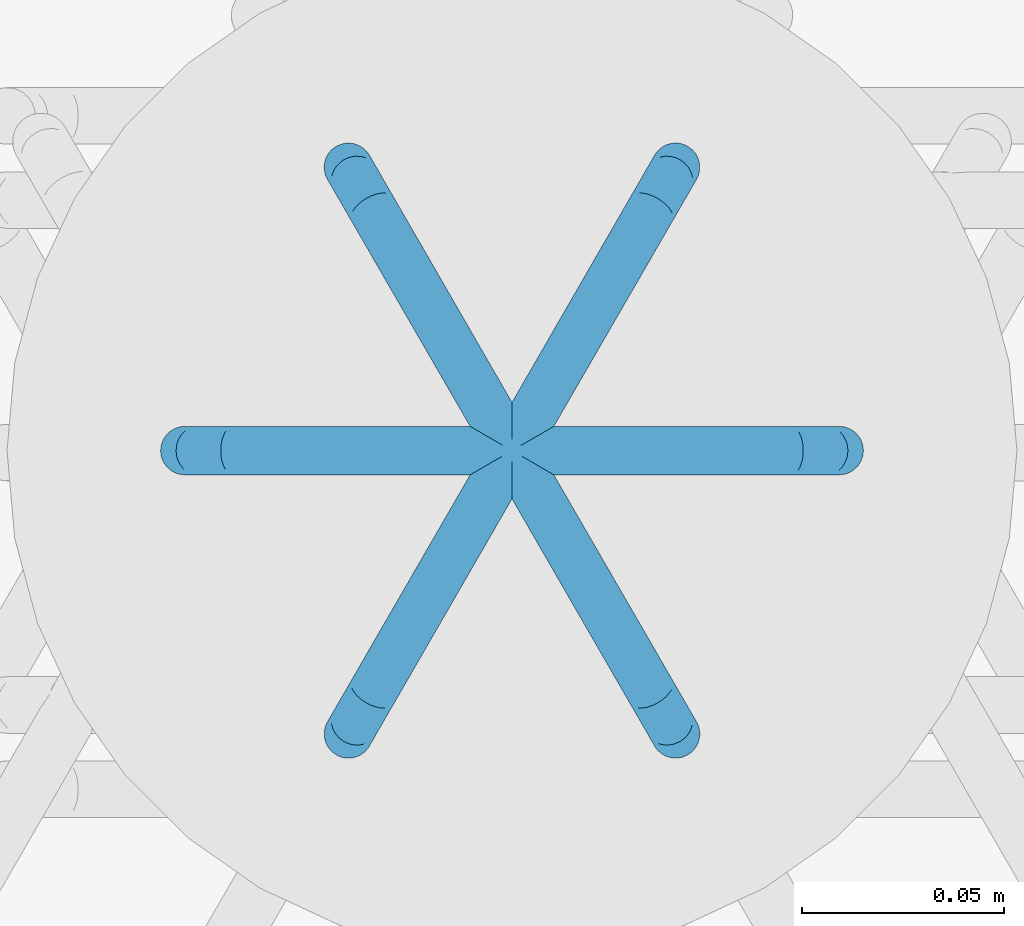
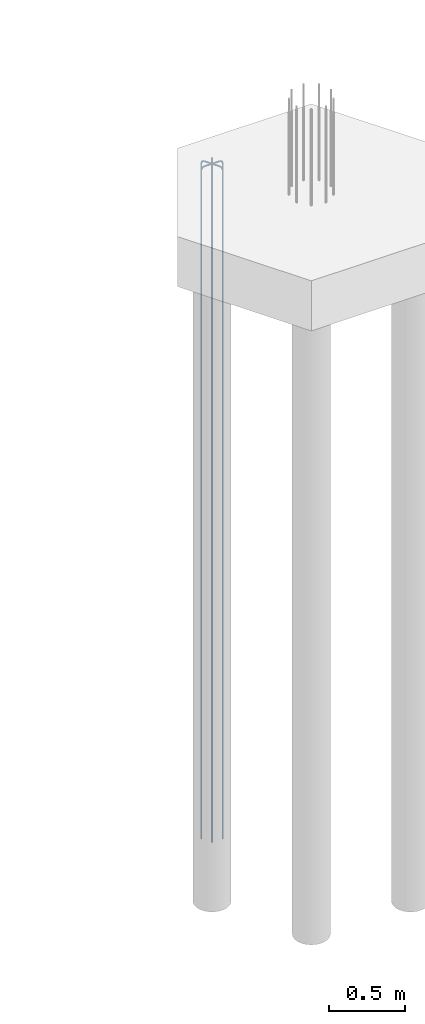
# One storey, part 9 of 23: 1 reinforcing bar.
"""IFC2X3 building model written with IfcOpenShell, lengths in metres."""

from ifc_helpers import new_model, entity, si_unit, direction, frame, origin, place, context, subcontext, project, spatial, shape, source, transform, mapped, element, save


model = new_model("IFC2X3")

# Units and contexts
model_context = context("Model", 3, precision=0.0, world=origin(), true_north=direction((0.0, 1.0)))
plan_context = context("Plan", 3, precision=0.0, world=origin(), true_north=direction((0.0, 1.0)))
body_context = subcontext(model_context, "Body", "Model", "MODEL_VIEW", scale=1.0)
ifc_project = project(units=[si_unit("LENGTHUNIT", "METRE"), si_unit("AREAUNIT", "SQUARE_METRE"), si_unit("VOLUMEUNIT", "CUBIC_METRE"), si_unit("PLANEANGLEUNIT", "RADIAN"), si_unit("THERMODYNAMICTEMPERATUREUNIT", "DEGREE_CELSIUS"), si_unit("FORCEUNIT", "NEWTON"), si_unit("MASSUNIT", "GRAM", prefix="KILO")], contexts=[model_context, plan_context])

# Site, building, storey
placement = place(None, origin())
site = spatial("IfcSite", under=ifc_project, at=placement, Name="Default Site", CompositionType="ELEMENT")
building = spatial("IfcBuilding", under=site, at=placement, Name="Default Building", CompositionType="ELEMENT")
storey_placement = place(placement, frame((0.0, 0.0, 0.0), z_axis=(1.0, 0.0, 0.0), x_axis=(0.0, 0.0, 1.0)))
storey = spatial("IfcBuildingStorey", under=building, at=storey_placement, Name="Piano 0", CompositionType="ELEMENT", Elevation=0.0)

# Reinforcing bar
shared_shape_1 = source(origin(), body_context, None, "AdvancedSweptSolid", [
    entity("IfcSweptDiskSolid", entity("IfcCompositeCurve", [entity("IfcCompositeCurveSegment", "CONTINUOUS", True, entity("IfcPolyline", [entity("IfcCartesianPoint", [0.0, 0.0, 0.0]), entity("IfcCartesianPoint", [-0.096, 0.0, 0.0]), entity("IfcCartesianPoint", [-0.108, 0.0, -0.003215]), entity("IfcCartesianPoint", [-0.116785, 0.0, -0.012]), entity("IfcCartesianPoint", [-0.12, 0.0, -0.024]), entity("IfcCartesianPoint", [-0.12, 0.0, -5.366])]))], False), 0.006, 0.0, 0.0),
])
shared_shape_2 = source(origin(), body_context, None, "AdvancedSweptSolid", [
    entity("IfcSweptDiskSolid", entity("IfcCompositeCurve", [entity("IfcCompositeCurveSegment", "CONTINUOUS", True, entity("IfcPolyline", [entity("IfcCartesianPoint", [0.0, 0.0, 0.0]), entity("IfcCartesianPoint", [-0.096, 0.0, 0.0]), entity("IfcCartesianPoint", [-0.108, 0.0, -0.003215]), entity("IfcCartesianPoint", [-0.116785, 0.0, -0.012]), entity("IfcCartesianPoint", [-0.12, 0.0, -0.024]), entity("IfcCartesianPoint", [-0.12, 0.0, -5.366])]))], False), 0.006, 0.0, 0.0),
])
shared_shape_3 = source(origin(), body_context, None, "AdvancedSweptSolid", [
    entity("IfcSweptDiskSolid", entity("IfcCompositeCurve", [entity("IfcCompositeCurveSegment", "CONTINUOUS", True, entity("IfcPolyline", [entity("IfcCartesianPoint", [0.0, 0.0, 0.0]), entity("IfcCartesianPoint", [-0.096, 0.0, 0.0]), entity("IfcCartesianPoint", [-0.108, 0.0, -0.003215]), entity("IfcCartesianPoint", [-0.116785, 0.0, -0.012]), entity("IfcCartesianPoint", [-0.12, 0.0, -0.024]), entity("IfcCartesianPoint", [-0.12, 0.0, -5.366])]))], False), 0.006, 0.0, 0.0),
])
shared_shape_4 = source(origin(), body_context, None, "AdvancedSweptSolid", [
    entity("IfcSweptDiskSolid", entity("IfcCompositeCurve", [entity("IfcCompositeCurveSegment", "CONTINUOUS", True, entity("IfcPolyline", [entity("IfcCartesianPoint", [0.0, 0.0, 0.0]), entity("IfcCartesianPoint", [-0.096, 0.0, 0.0]), entity("IfcCartesianPoint", [-0.108, 0.0, -0.003215]), entity("IfcCartesianPoint", [-0.116785, 0.0, -0.012]), entity("IfcCartesianPoint", [-0.12, 0.0, -0.024]), entity("IfcCartesianPoint", [-0.12, 0.0, -5.366])]))], False), 0.006, 0.0, 0.0),
])
shared_shape_5 = source(origin(), body_context, None, "AdvancedSweptSolid", [
    entity("IfcSweptDiskSolid", entity("IfcCompositeCurve", [entity("IfcCompositeCurveSegment", "CONTINUOUS", True, entity("IfcPolyline", [entity("IfcCartesianPoint", [0.0, 0.0, 0.0]), entity("IfcCartesianPoint", [-0.096, 0.0, 0.0]), entity("IfcCartesianPoint", [-0.108, 0.0, -0.003215]), entity("IfcCartesianPoint", [-0.116785, 0.0, -0.012]), entity("IfcCartesianPoint", [-0.12, 0.0, -0.024]), entity("IfcCartesianPoint", [-0.12, 0.0, -5.366])]))], False), 0.006, 0.0, 0.0),
])
shared_shape_6 = source(origin(), body_context, None, "AdvancedSweptSolid", [
    entity("IfcSweptDiskSolid", entity("IfcCompositeCurve", [entity("IfcCompositeCurveSegment", "CONTINUOUS", True, entity("IfcPolyline", [entity("IfcCartesianPoint", [0.0, 0.0, 0.0]), entity("IfcCartesianPoint", [-0.096, 0.0, 0.0]), entity("IfcCartesianPoint", [-0.108, 0.0, -0.003215]), entity("IfcCartesianPoint", [-0.116785, 0.0, -0.012]), entity("IfcCartesianPoint", [-0.12, 0.0, -0.024]), entity("IfcCartesianPoint", [-0.12, 0.0, -5.366])]))], False), 0.006, 0.0, 0.0),
])
element("IfcReinforcingBar", 1, at=placement, inside=storey, Name="Arm Principale; Palo:3 Filo:3 [Piano:0]", BarLength=32.916, BarRole="MAIN", BarSurface="TEXTURED", NominalDiameter=0.012, shapes=[
    shape(body_context, None, "MappedRepresentation", [mapped(shared_shape_1, transform((7.664, 0.65, -0.034))), mapped(shared_shape_2, transform((7.6445, 0.683775, -0.034), x_axis=(0.5, 0.866025, 0.0), y_axis=(-0.866025, 0.5, 0.0))), mapped(shared_shape_3, transform((7.6055, 0.683775, -0.034), x_axis=(-0.5, 0.866025, 0.0), y_axis=(-0.866025, -0.5, 0.0))), mapped(shared_shape_4, transform((7.586, 0.65, -0.034), x_axis=(-1.0, 0.0, 0.0), y_axis=(0.0, -1.0, 0.0))), mapped(shared_shape_5, transform((7.6055, 0.616225, -0.034), x_axis=(-0.5, -0.866025, 0.0), y_axis=(0.866025, -0.5, 0.0))), mapped(shared_shape_6, transform((7.6445, 0.616225, -0.034), x_axis=(0.5, -0.866025, 0.0), y_axis=(0.866025, 0.5, 0.0)))]),
])

save(model, "model.ifc")
